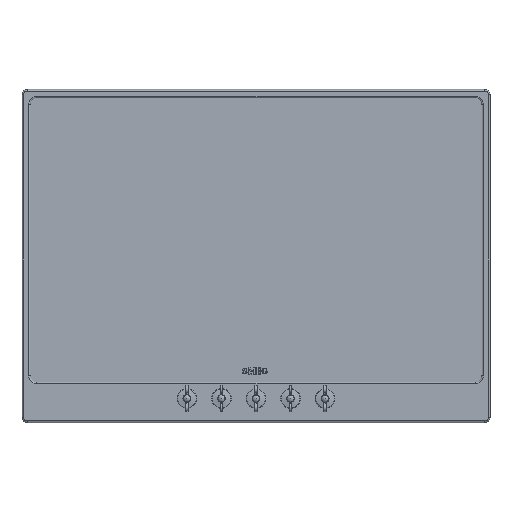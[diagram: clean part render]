
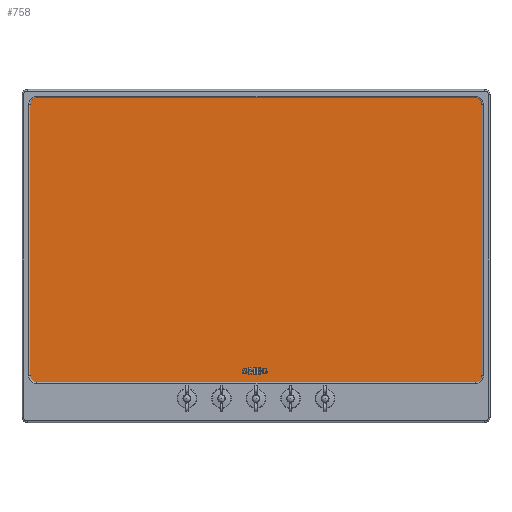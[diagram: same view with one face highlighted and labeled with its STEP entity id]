
A CAD part, top view. The second image highlights one B-rep face of the part: STEP entity #758.
In plain terms, the highlighted planar face has unit normal (0, 0, 1).
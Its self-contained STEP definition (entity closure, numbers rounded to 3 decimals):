
#448=CIRCLE('',#4903,4.);
#450=CIRCLE('',#4907,4.);
#452=CIRCLE('',#4911,4.);
#454=CIRCLE('',#4915,4.);
#758=ADVANCED_FACE('',(#1198),#1050,.T.);
#1050=PLANE('',#4919);
#1198=FACE_OUTER_BOUND('',#1452,.T.);
#1452=EDGE_LOOP('',(#1836,#1837,#1838,#1839,#1840,#1841,#1842,#1843));
#1836=ORIENTED_EDGE('',*,*,#3553,.T.);
#1837=ORIENTED_EDGE('',*,*,#3557,.T.);
#1838=ORIENTED_EDGE('',*,*,#3560,.T.);
#1839=ORIENTED_EDGE('',*,*,#3563,.T.);
#1840=ORIENTED_EDGE('',*,*,#3566,.T.);
#1841=ORIENTED_EDGE('',*,*,#3569,.T.);
#1842=ORIENTED_EDGE('',*,*,#3572,.T.);
#1843=ORIENTED_EDGE('',*,*,#3575,.T.);
#3104=VERTEX_POINT('',#7044);
#3105=VERTEX_POINT('',#7045);
#3108=VERTEX_POINT('',#7053);
#3110=VERTEX_POINT('',#7059);
#3112=VERTEX_POINT('',#7065);
#3114=VERTEX_POINT('',#7071);
#3116=VERTEX_POINT('',#7077);
#3118=VERTEX_POINT('',#7083);
#3553=EDGE_CURVE('',#3104,#3105,#4207,.T.);
#3557=EDGE_CURVE('',#3105,#3108,#448,.T.);
#3560=EDGE_CURVE('',#3108,#3110,#4212,.T.);
#3563=EDGE_CURVE('',#3110,#3112,#450,.T.);
#3566=EDGE_CURVE('',#3112,#3114,#4216,.T.);
#3569=EDGE_CURVE('',#3114,#3116,#452,.T.);
#3572=EDGE_CURVE('',#3116,#3118,#4220,.T.);
#3575=EDGE_CURVE('',#3118,#3104,#454,.T.);
#4207=LINE('',#7043,#4554);
#4212=LINE('',#7058,#4559);
#4216=LINE('',#7070,#4563);
#4220=LINE('',#7082,#4567);
#4554=VECTOR('',#5501,1.);
#4559=VECTOR('',#5514,1.);
#4563=VECTOR('',#5526,1.);
#4567=VECTOR('',#5538,1.);
#4903=AXIS2_PLACEMENT_3D('',#7052,#5507,#5508);
#4907=AXIS2_PLACEMENT_3D('',#7064,#5519,#5520);
#4911=AXIS2_PLACEMENT_3D('',#7076,#5531,#5532);
#4915=AXIS2_PLACEMENT_3D('',#7088,#5543,#5544);
#4919=AXIS2_PLACEMENT_3D('',#7092,#5551,#5552);
#5501=DIRECTION('',(1.,0.,0.));
#5507=DIRECTION('',(0.,0.,1.));
#5508=DIRECTION('',(1.,0.,0.));
#5514=DIRECTION('',(0.,1.,0.));
#5519=DIRECTION('',(0.,0.,1.));
#5520=DIRECTION('',(1.,0.,0.));
#5526=DIRECTION('',(-1.,0.,0.));
#5531=DIRECTION('',(0.,0.,1.));
#5532=DIRECTION('',(1.,0.,0.));
#5538=DIRECTION('',(0.,-1.,0.));
#5543=DIRECTION('',(0.,0.,1.));
#5544=DIRECTION('',(1.,0.,0.));
#5551=DIRECTION('',(0.,0.,1.));
#5552=DIRECTION('',(1.,0.,0.));
#7043=CARTESIAN_POINT('',(54.18,-1085.78,-2.));
#7044=CARTESIAN_POINT('',(54.18,-1085.78,-2.));
#7045=CARTESIAN_POINT('',(756.18,-1085.78,-2.));
#7052=CARTESIAN_POINT('',(756.18,-1081.78,-2.));
#7053=CARTESIAN_POINT('',(760.18,-1081.78,-2.));
#7058=CARTESIAN_POINT('',(760.18,-1081.78,-2.));
#7059=CARTESIAN_POINT('',(760.18,-640.78,-2.));
#7064=CARTESIAN_POINT('',(756.18,-640.78,-2.));
#7065=CARTESIAN_POINT('',(756.18,-636.78,-2.));
#7070=CARTESIAN_POINT('',(756.18,-636.78,-2.));
#7071=CARTESIAN_POINT('',(54.18,-636.78,-2.));
#7076=CARTESIAN_POINT('',(54.18,-640.78,-2.));
#7077=CARTESIAN_POINT('',(50.18,-640.78,-2.));
#7082=CARTESIAN_POINT('',(50.18,-640.78,-2.));
#7083=CARTESIAN_POINT('',(50.18,-1081.78,-2.));
#7088=CARTESIAN_POINT('',(54.18,-1081.78,-2.));
#7092=CARTESIAN_POINT('',(756.18,-1081.78,-2.));
